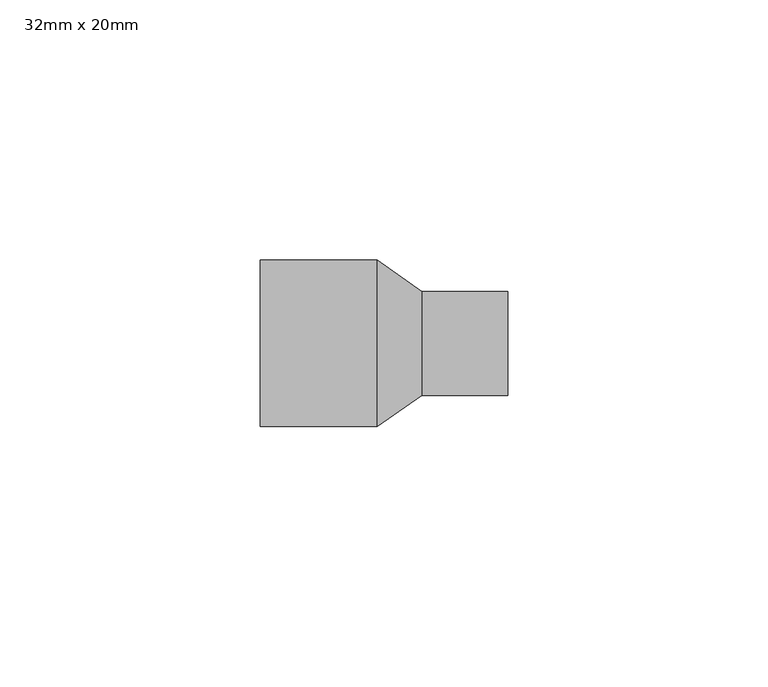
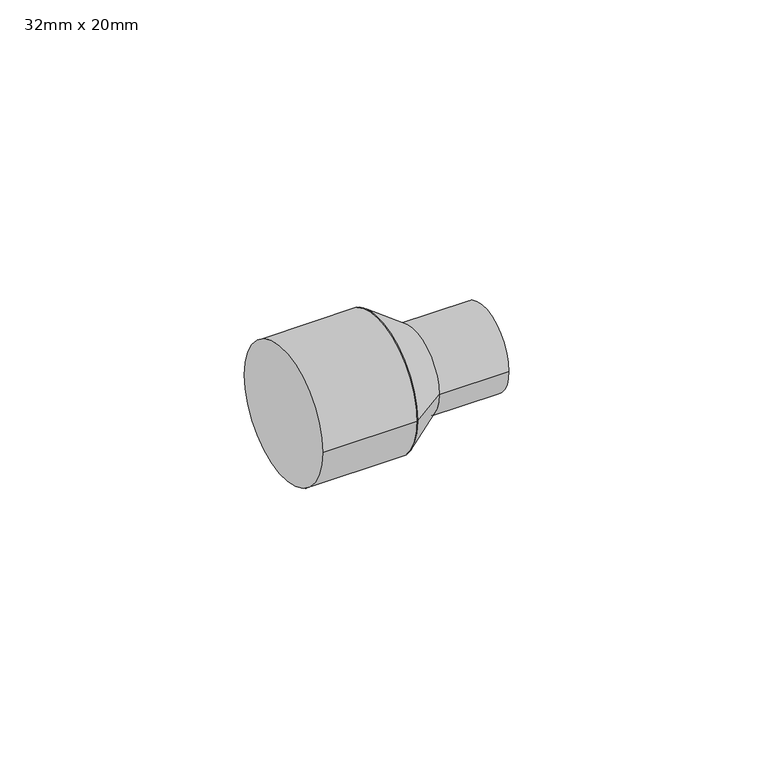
"""IFC4 building model written with IfcOpenShell, lengths in millimetres: pipe fitting geometry, PipeFitting_HTA_CPVC_ReducingBushesLongPattern : 32mm x 20mm."""

import ifcopenshell
import ifcopenshell.guid

model = None  # the IFC model being written
_history = None  # IfcOwnerHistory: only IFC2X3 demands one
_inside = {}  # id of a spatial element -> (the spatial element, [elements in it])
_under = {}  # id of a project, library or spatial element -> (it, [spatial elements below it])
_declared = {}  # id of a project -> (the project, [libraries it declares])
_typed = {}  # id of a type object -> (the type object, [elements of that type])
_made_of = {}  # id of a material, layer set ... -> (it, [elements and type objects made of it])


def new_model(schema):
    """Start an empty IFC model of exactly this schema.

    Asked for "IFC4X3", IfcOpenShell would pick the latest addendum, in which some entities
    have other attributes; the version numbers below select the first issue.
    IFC2X3 requires an IfcOwnerHistory on every rooted entity: one is made here for all.
    """
    global model, _history
    if schema == "IFC4X3":
        model = ifcopenshell.file(schema_version=(4, 3, 0, 0))
    else:
        model = ifcopenshell.file(schema=schema)
    _inside.clear()
    _under.clear()
    _declared.clear()
    _typed.clear()
    _made_of.clear()
    _history = None
    if model.schema == "IFC2X3":
        org = make("IfcOrganization", Name="unknown")
        user = make(
            "IfcPersonAndOrganization",
            ThePerson=make("IfcPerson", FamilyName="unknown"),
            TheOrganization=org,
        )
        app = make(
            "IfcApplication",
            ApplicationDeveloper=org,
            Version="unknown",
            ApplicationFullName="unknown",
            ApplicationIdentifier="unknown",
        )
        _history = make(
            "IfcOwnerHistory",
            OwningUser=user,
            OwningApplication=app,
            ChangeAction="ADDED",
            CreationDate=0,
        )
    return model


def make(cls, **values):
    """One entity of the class cls with the attributes given. An attribute that is None is left unset."""
    return model.create_entity(
        cls, **{name: value for name, value in values.items() if value is not None}
    )


def rooted(cls, **values):
    """An entity with a GlobalId (a new one), such as an element, a storey or a relation."""
    return make(cls, GlobalId=ifcopenshell.guid.new(), OwnerHistory=_history, **values)


def si_unit(unit_type, name, prefix=None):
    """IfcSIUnit, for example si_unit("LENGTHUNIT", "METRE", prefix="MILLI")."""
    return make("IfcSIUnit", UnitType=unit_type, Prefix=prefix, Name=name)


def assignment(units):
    """IfcUnitAssignment: the units of a project."""
    return None if units is None else make("IfcUnitAssignment", Units=units)


def point(xyz):
    """IfcCartesianPoint."""
    return None if xyz is None else make("IfcCartesianPoint", Coordinates=xyz)


def direction(xyz):
    """IfcDirection."""
    return None if xyz is None else make("IfcDirection", DirectionRatios=xyz)


def frame(location, z_axis=None, x_axis=None):
    """IfcAxis2Placement3D, a coordinate frame: its origin and axes. An axis left out is left unset."""
    return make(
        "IfcAxis2Placement3D",
        Location=point(location),
        Axis=direction(z_axis),
        RefDirection=direction(x_axis),
    )


def frame_2d(location, x_axis=None):
    """IfcAxis2Placement2D, a coordinate frame in the plane: its origin and x axis."""
    return make(
        "IfcAxis2Placement2D", Location=point(location), RefDirection=direction(x_axis)
    )


def origin():
    """The frame at (0, 0, 0) with its axes left unset."""
    return frame((0.0, 0.0, 0.0))


def origin_2d():
    """The frame at (0, 0) in the plane with its x axis left unset."""
    return frame_2d((0.0, 0.0))


def place(relative_to, where):
    """IfcLocalPlacement: puts the frame where relative to a parent placement (None: the world)."""
    return make(
        "IfcLocalPlacement", PlacementRelTo=relative_to, RelativePlacement=where
    )


def context(
    kind, dimensions, precision=None, world=None, true_north=None, identifier=None
):
    """IfcGeometricRepresentationContext, for example the 3D "Model" context."""
    return make(
        "IfcGeometricRepresentationContext",
        ContextIdentifier=identifier,
        ContextType=kind,
        CoordinateSpaceDimension=dimensions,
        Precision=precision,
        WorldCoordinateSystem=world,
        TrueNorth=true_north,
    )


def project(units=None, contexts=None):
    """IfcProject with its units and contexts."""
    return rooted(
        "IfcProject",
        Name="project",
        RepresentationContexts=contexts,
        UnitsInContext=assignment(units),
    )


def spatial(cls, under=None, at=None, **own):
    """A site, building, storey or space (cls), placed at a placement, below another one or the project."""
    s = rooted(cls, ObjectPlacement=at, **own)
    if under is not None:
        _under.setdefault(under.id(), (under, []))[1].append(s)
    return s


def polyline(points):
    """IfcPolyline through the points."""
    return make("IfcPolyline", Points=[point(p) for p in points])


def circle_curve(where, radius):
    """IfcCircle in the frame where."""
    return make("IfcCircle", Position=where, Radius=radius)


def trimmed(basis, trim1, trim2, sense, master):
    """IfcTrimmedCurve: the piece of a basis curve between two trims."""
    return make(
        "IfcTrimmedCurve",
        BasisCurve=basis,
        Trim1=trim1,
        Trim2=trim2,
        SenseAgreement=sense,
        MasterRepresentation=master,
    )


def segment(curve, same_sense, transition):
    """IfcCompositeCurveSegment."""
    return make(
        "IfcCompositeCurveSegment",
        Transition=transition,
        SameSense=same_sense,
        ParentCurve=curve,
    )


def composite_curve(segments, self_intersect=None):
    """IfcCompositeCurve: segments joined end to end."""
    return make("IfcCompositeCurve", Segments=segments, SelfIntersect=self_intersect)


def outline(outer, holes=None, kind="AREA"):
    """IfcArbitraryClosedProfileDef: a profile drawn as a closed curve; with holes, ...WithVoids."""
    if holes is None:
        return make("IfcArbitraryClosedProfileDef", ProfileType=kind, OuterCurve=outer)
    return make(
        "IfcArbitraryProfileDefWithVoids",
        ProfileType=kind,
        OuterCurve=outer,
        InnerCurves=holes,
    )


def extrude(swept, where, along, depth):
    """IfcExtrudedAreaSolid: the profile swept, set in the frame where, extruded along a direction by depth."""
    return make(
        "IfcExtrudedAreaSolid",
        SweptArea=swept,
        Position=where,
        ExtrudedDirection=direction(along),
        Depth=depth,
    )


def shape(context_of_items, identifier, shape_type, items):
    """IfcShapeRepresentation: the items that make up one representation, for example the "Body"."""
    return make(
        "IfcShapeRepresentation",
        ContextOfItems=context_of_items,
        RepresentationIdentifier=identifier,
        RepresentationType=shape_type,
        Items=items,
    )


def source(mapping_origin, context_of_items, identifier, shape_type, items):
    """IfcRepresentationMap: a shape defined once, which mapped items show again and again."""
    return make(
        "IfcRepresentationMap",
        MappingOrigin=mapping_origin,
        MappedRepresentation=shape(context_of_items, identifier, shape_type, items),
    )


def transform(
    local_origin,
    x_axis=None,
    y_axis=None,
    z_axis=None,
    scale=None,
    scale2=None,
    scale3=None,
    uniform=True,
):
    """IfcCartesianTransformationOperator3D, or its non-uniform kind. x_axis, y_axis, z_axis: its Axis1, 2, 3."""
    if uniform:
        return make(
            "IfcCartesianTransformationOperator3D",
            Axis1=direction(x_axis),
            Axis2=direction(y_axis),
            LocalOrigin=point(local_origin),
            Scale=scale,
            Axis3=direction(z_axis),
        )
    return make(
        "IfcCartesianTransformationOperator3DnonUniform",
        Axis1=direction(x_axis),
        Axis2=direction(y_axis),
        LocalOrigin=point(local_origin),
        Scale=scale,
        Axis3=direction(z_axis),
        Scale2=scale2,
        Scale3=scale3,
    )


def mapped(mapping_source, mapping_target):
    """IfcMappedItem: shows the shape of a source again, moved by a transform."""
    return make(
        "IfcMappedItem", MappingSource=mapping_source, MappingTarget=mapping_target
    )


def made_of(thing, what):
    """Note that an element or type object is made of a material, layer set ...; save() writes the relation."""
    if what is not None:
        _made_of.setdefault(what.id(), (what, []))[1].append(thing)
    return thing


def element(
    cls,
    number,
    at=None,
    inside=None,
    cuts=None,
    type_object=None,
    material=None,
    context=None,
    identifier="Body",
    shape_type=None,
    held_by="IfcProductDefinitionShape",
    body=None,
    shapes=None,
    **own,
):
    """One element of the class cls, such as IfcWall. Its Tag is "e" and its number.

    at: its placement. inside: the storey or other place that contains it. cuts: it is an
    opening in that element (IfcRelVoidsElement). A single representation is given by context,
    identifier, shape_type and body (its items); several are given by shapes. held_by: the class
    of the entity that holds the representations. save() writes the other relations.
    """
    e = rooted(cls, Tag="e%d" % number, ObjectPlacement=at, **own)
    if body is not None:
        shapes = [shape(context, identifier, shape_type, body)]
    if shapes is not None:
        e.Representation = make(held_by, Representations=shapes)
    if inside is not None:
        _inside.setdefault(inside.id(), (inside, []))[1].append(e)
    if cuts is not None:
        rooted(
            "IfcRelVoidsElement", RelatingBuildingElement=cuts, RelatedOpeningElement=e
        )
    if type_object is not None:
        _typed.setdefault(type_object.id(), (type_object, []))[1].append(e)
    return made_of(e, material)


def aggregate(whole, parts):
    """IfcRelAggregates: a whole, such as a stair, and the parts it consists of."""
    return rooted("IfcRelAggregates", RelatingObject=whole, RelatedObjects=parts)


def save(model, path):
    """Write the relations noted so far, then the file.

    IfcRelAggregates (storeys below a building ...), IfcRelContainedInSpatialStructure (elements
    in a storey), IfcRelDefinesByType, IfcRelAssociatesMaterial and IfcRelDeclares: one each for
    every whole, place, type object, material and project.
    """
    for whole, parts in _under.values():
        aggregate(whole, parts)
    for where, things in _inside.values():
        rooted(
            "IfcRelContainedInSpatialStructure",
            RelatedElements=things,
            RelatingStructure=where,
        )
    for kind, things in _typed.values():
        rooted("IfcRelDefinesByType", RelatedObjects=things, RelatingType=kind)
    for what, things in _made_of.values():
        rooted("IfcRelAssociatesMaterial", RelatedObjects=things, RelatingMaterial=what)
    for by, libraries in _declared.values():
        rooted("IfcRelDeclares", RelatingContext=by, RelatedDefinitions=libraries)
    model.write(path)


def plane_surface(at):
    """IfcPlane: the flat surface through the origin of the frame at, square to its z axis."""
    return make("IfcPlane", Position=at)


def revolved_surface(curve, axis_point, axis_direction):
    """IfcSurfaceOfRevolution: the curve turned about the line through axis_point along axis_direction."""
    return make(
        "IfcSurfaceOfRevolution",
        SweptCurve=make("IfcArbitraryOpenProfileDef", ProfileType="CURVE", Curve=curve),
        AxisPosition=make("IfcAxis1Placement", Location=point(axis_point), Axis=direction(axis_direction)),
    )


def advanced_brep(points, edges, surfaces, faces):
    """IfcAdvancedBrep: a solid bounded by faces that lie on surfaces and meet in shared edges.

    An edge is (start, end): straight between two places in points (the first is 0);
    or (start, end, curve); or (start, end, curve, False) where it runs against its curve.
    A face is (place in surfaces, loops), or (place, loops, False) where it looks against
    its surface's normal. A loop lists edges by number (the first is 1), with a minus sign
    where the edge is run from its end to its start. The first loop is the outer one.
    """
    corners = [point(p) for p in points]
    vertices = [make("IfcVertexPoint", VertexGeometry=c) for c in corners]
    made = []
    for start, end, *more in edges:
        made.append(
            make(
                "IfcEdgeCurve",
                EdgeStart=vertices[start],
                EdgeEnd=vertices[end],
                EdgeGeometry=more[0] if more else make("IfcPolyline", Points=[corners[start], corners[end]]),
                SameSense=more[1] if len(more) > 1 else True,
            )
        )
    hull = []
    for where, loops, *sense in faces:
        bounds = []
        for j, loop in enumerate(loops):
            ring = [make("IfcOrientedEdge", EdgeElement=made[abs(k) - 1], Orientation=k > 0) for k in loop]
            bounds.append(
                make(
                    "IfcFaceOuterBound" if j == 0 else "IfcFaceBound",
                    Bound=make("IfcEdgeLoop", EdgeList=ring),
                    Orientation=True,
                )
            )
        hull.append(make("IfcAdvancedFace", Bounds=bounds, FaceSurface=surfaces[where], SameSense=sense[0] if sense else True))
    return make("IfcAdvancedBrep", Outer=make("IfcClosedShell", CfsFaces=hull))


def pipe_fitting_32mm_x_20mm_537b55f7(model_context):
    return source(origin(), model_context, "Body", "SolidModel", [
        advanced_brep(
        [(31.0, -10.0, 0.0), (31.0, 10.0, 0.0), (22.5, -16.0, 0.0), (22.5, 16.0, 0.0)],
        [
            (0, 1, circle_curve(frame((31.0, 0.0, 0.0), z_axis=(1.0, 0.0, 0.0), x_axis=(0.0, -1.0, 0.0)), 10.0)),
            (1, 0, circle_curve(frame((31.0, 0.0, 0.0), z_axis=(1.0, 0.0, 0.0), x_axis=(0.0, 1.0, 0.0)), 10.0)),
            (2, 3, circle_curve(frame((22.5, 0.0, 0.0), z_axis=(-1.0, 0.0, 0.0), x_axis=(0.0, 1.0, 0.0)), 16.0)),
            (3, 2, circle_curve(frame((22.5, 0.0, 0.0), z_axis=(-1.0, 0.0, 0.0), x_axis=(0.0, -1.0, 0.0)), 16.0)),
            (3, 1),
            (0, 2),
        ],
        [
            plane_surface(frame((31.0, 0.0, 0.0), z_axis=(1.0, 0.0, 0.0), x_axis=(0.0, 0.0, -1.0))),
            plane_surface(frame((22.5, 0.0, 0.0), z_axis=(-1.0, 0.0, 0.0), x_axis=(0.0, 0.0, -1.0))),
            revolved_surface(polyline([(31.0, -10.00000000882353, 0.0), (22.5, -16.0, 0.0)]), (45.1666667, 0.0, 0.0), (-1.0, 0.0, 0.0)),
            revolved_surface(polyline([(31.0, 10.00000000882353, 0.0), (22.5, 16.0, 0.0)]), (45.1666667, 0.0, 0.0), (-1.0, 0.0, 0.0)),
        ],
        [
            (0, [[1, 2]]),
            (1, [[3, 4]]),
            (2, [[-4, 5, -1, 6]]),
            (3, [[-3, -6, -2, -5]]),
        ],
    ),
        extrude(outline(composite_curve([segment(trimmed(circle_curve(origin_2d(), 10.0), [point((-10.0, 0.0))], [point((10.0, 0.0))], False, "CARTESIAN"), True, "CONTINUOUS"), segment(trimmed(circle_curve(origin_2d(), 10.0), [point((10.0, 0.0))], [point((-10.0, 0.0))], False, "CARTESIAN"), True, "CONTINUOUS")], self_intersect=False)), frame((31.0, 0.0, 0.0), z_axis=(1.0, 0.0, 0.0), x_axis=(0.0, 1.0, 0.0)), (0.0, 0.0, 1.0), 16.5),
        extrude(outline(composite_curve([segment(trimmed(circle_curve(origin_2d(), 16.0), [point((-16.0, 0.0))], [point((16.0, 0.0))], False, "CARTESIAN"), True, "CONTINUOUS"), segment(trimmed(circle_curve(origin_2d(), 16.0), [point((16.0, 0.0))], [point((-16.0, 0.0))], False, "CARTESIAN"), True, "CONTINUOUS")], self_intersect=False)), frame((0.0, 0.0, 0.0), z_axis=(1.0, 0.0, 0.0), x_axis=(0.0, 1.0, 0.0)), (0.0, 0.0, 1.0), 22.5),
    ])


if __name__ == "__main__":
    model = new_model("IFC4")
    model_context = context("Model", 3, world=origin())
    ifc_project = project(units=[si_unit("LENGTHUNIT", "METRE", prefix="MILLI")], contexts=[model_context])
    site = spatial("IfcSite", under=ifc_project)
    building = spatial("IfcBuilding", under=site)
    placement = place(None, origin())
    pipe_fitting_32mm_x_20mm_shape = pipe_fitting_32mm_x_20mm_537b55f7(model_context)
    element("IfcPipeFitting", 1, ObjectType="PipeFitting_HTA_CPVC_ReducingBushesLongPattern : 32mm x 20mm", at=placement, inside=building, context=model_context, shape_type="MappedRepresentation", body=[
        mapped(pipe_fitting_32mm_x_20mm_shape, transform((0.0, 0.0, 0.0), x_axis=(1.0, 0.0, 0.0), y_axis=(0.0, 1.0, 0.0), z_axis=(0.0, 0.0, 1.0))),
    ])
    save(model, "model.ifc")
